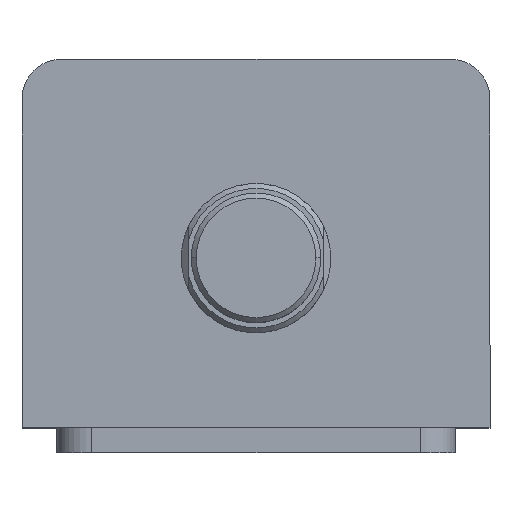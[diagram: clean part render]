
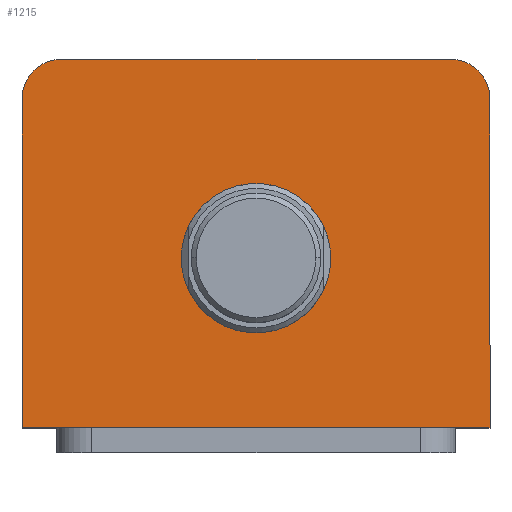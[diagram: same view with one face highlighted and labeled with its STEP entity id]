
A CAD part, top view. The second image highlights one B-rep face of the part: STEP entity #1215.
In plain terms, the highlighted planar face has unit normal (0, 0, 1).
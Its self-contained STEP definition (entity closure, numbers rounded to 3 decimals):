
#43 = LINE ( 'NONE', #2799, #46 ) ;
#46 = VECTOR ( 'NONE', #2796, 1000. ) ;
#426 = VECTOR ( 'NONE', #2726, 1000. ) ;
#436 = CIRCLE ( 'NONE', #1088, 15. ) ;
#781 = CARTESIAN_POINT ( 'NONE',  ( -47., 29., 100. ) ) ;
#784 = CARTESIAN_POINT ( 'NONE',  ( 39., 37., 100. ) ) ;
#790 = CARTESIAN_POINT ( 'NONE',  ( -47., -37., 100. ) ) ;
#794 = CARTESIAN_POINT ( 'NONE',  ( -39., 37., 100. ) ) ;
#814 = CARTESIAN_POINT ( 'NONE',  ( 47., 29., 100. ) ) ;
#817 = CARTESIAN_POINT ( 'NONE',  ( 47., -37., 100. ) ) ;
#837 = CARTESIAN_POINT ( 'NONE',  ( 15., -3., 100. ) ) ;
#838 = CARTESIAN_POINT ( 'NONE',  ( -15., -3., 100. ) ) ;
#1022 = AXIS2_PLACEMENT_3D ( 'NONE', #2355, #2337, #2330 ) ;
#1051 = AXIS2_PLACEMENT_3D ( 'NONE', #2317, #2315, #2313 ) ;
#1059 = AXIS2_PLACEMENT_3D ( 'NONE', #2608, #2605, #2600 ) ;
#1064 = AXIS2_PLACEMENT_3D ( 'NONE', #2587, #2585, #2583 ) ;
#1088 = AXIS2_PLACEMENT_3D ( 'NONE', #1721, #1705, #1704 ) ;
#1215 = ADVANCED_FACE ( 'NONE', ( #2068, #2122 ), #2346, .T. ) ;
#1250 = EDGE_CURVE ( 'NONE', #2208, #2178, #2050, .T. ) ;
#1260 = EDGE_CURVE ( 'NONE', #2188, #2174, #2027, .T. ) ;
#1266 = EDGE_CURVE ( 'NONE', #2184, #2211, #2017, .T. ) ;
#1274 = EDGE_CURVE ( 'NONE', #2174, #2184, #1996, .T. ) ;
#1283 = EDGE_CURVE ( 'NONE', #2231, #2232, #1974, .T. ) ;
#1337 = EDGE_CURVE ( 'NONE', #2232, #2231, #436, .T. ) ;
#1361 = EDGE_CURVE ( 'NONE', #2211, #2208, #1898, .T. ) ;
#1385 = EDGE_CURVE ( 'NONE', #2178, #2188, #43, .T. ) ;
#1570 = EDGE_LOOP ( 'NONE', ( #1874, #1875 ) ) ;
#1627 = EDGE_LOOP ( 'NONE', ( #1876, #1877, #1878, #1879, #1880, #1881 ) ) ;
#1704 = DIRECTION ( 'NONE',  ( 1., 0., 0. ) ) ;
#1705 = DIRECTION ( 'NONE',  ( 0., 0., 1. ) ) ;
#1721 = CARTESIAN_POINT ( 'NONE',  ( 0., -3., 100. ) ) ;
#1874 = ORIENTED_EDGE ( 'NONE', *, *, #1283, .F. ) ;
#1875 = ORIENTED_EDGE ( 'NONE', *, *, #1337, .F. ) ;
#1876 = ORIENTED_EDGE ( 'NONE', *, *, #1385, .T. ) ;
#1877 = ORIENTED_EDGE ( 'NONE', *, *, #1260, .T. ) ;
#1878 = ORIENTED_EDGE ( 'NONE', *, *, #1274, .T. ) ;
#1879 = ORIENTED_EDGE ( 'NONE', *, *, #1266, .T. ) ;
#1880 = ORIENTED_EDGE ( 'NONE', *, *, #1361, .T. ) ;
#1881 = ORIENTED_EDGE ( 'NONE', *, *, #1250, .T. ) ;
#1898 = LINE ( 'NONE', #2733, #426 ) ;
#1974 = CIRCLE ( 'NONE', #1064, 15. ) ;
#1991 = VECTOR ( 'NONE', #2607, 1000. ) ;
#1996 = LINE ( 'NONE', #2609, #1991 ) ;
#2014 = VECTOR ( 'NONE', #2535, 1000. ) ;
#2017 = LINE ( 'NONE', #2543, #2014 ) ;
#2027 = CIRCLE ( 'NONE', #1059, 8. ) ;
#2050 = CIRCLE ( 'NONE', #1051, 8. ) ;
#2068 = FACE_BOUND ( 'NONE', #1570, .T. ) ;
#2122 = FACE_OUTER_BOUND ( 'NONE', #1627, .T. ) ;
#2174 = VERTEX_POINT ( 'NONE', #781 ) ;
#2178 = VERTEX_POINT ( 'NONE', #784 ) ;
#2184 = VERTEX_POINT ( 'NONE', #790 ) ;
#2188 = VERTEX_POINT ( 'NONE', #794 ) ;
#2208 = VERTEX_POINT ( 'NONE', #814 ) ;
#2211 = VERTEX_POINT ( 'NONE', #817 ) ;
#2231 = VERTEX_POINT ( 'NONE', #837 ) ;
#2232 = VERTEX_POINT ( 'NONE', #838 ) ;
#2313 = DIRECTION ( 'NONE',  ( 1., 0., 0. ) ) ;
#2315 = DIRECTION ( 'NONE',  ( 0., 0., 1. ) ) ;
#2317 = CARTESIAN_POINT ( 'NONE',  ( 39., 29., 100. ) ) ;
#2330 = DIRECTION ( 'NONE',  ( 1., 0., 0. ) ) ;
#2337 = DIRECTION ( 'NONE',  ( 0., 0., 1. ) ) ;
#2346 = PLANE ( 'NONE',  #1022 ) ;
#2355 = CARTESIAN_POINT ( 'NONE',  ( 0., 0., 100. ) ) ;
#2535 = DIRECTION ( 'NONE',  ( 1., 0., 0. ) ) ;
#2543 = CARTESIAN_POINT ( 'NONE',  ( -47., -37., 100. ) ) ;
#2583 = DIRECTION ( 'NONE',  ( 1., 0., 0. ) ) ;
#2585 = DIRECTION ( 'NONE',  ( 0., 0., 1. ) ) ;
#2587 = CARTESIAN_POINT ( 'NONE',  ( 0., -3., 100. ) ) ;
#2600 = DIRECTION ( 'NONE',  ( 1., 0., 0. ) ) ;
#2605 = DIRECTION ( 'NONE',  ( 0., 0., 1. ) ) ;
#2607 = DIRECTION ( 'NONE',  ( 0., -1., 0. ) ) ;
#2608 = CARTESIAN_POINT ( 'NONE',  ( -39., 29., 100. ) ) ;
#2609 = CARTESIAN_POINT ( 'NONE',  ( -47., 37., 100. ) ) ;
#2726 = DIRECTION ( 'NONE',  ( 0., 1., 0. ) ) ;
#2733 = CARTESIAN_POINT ( 'NONE',  ( 47., 37., 100. ) ) ;
#2796 = DIRECTION ( 'NONE',  ( -1., 0., 0. ) ) ;
#2799 = CARTESIAN_POINT ( 'NONE',  ( -47., 37., 100. ) ) ;
